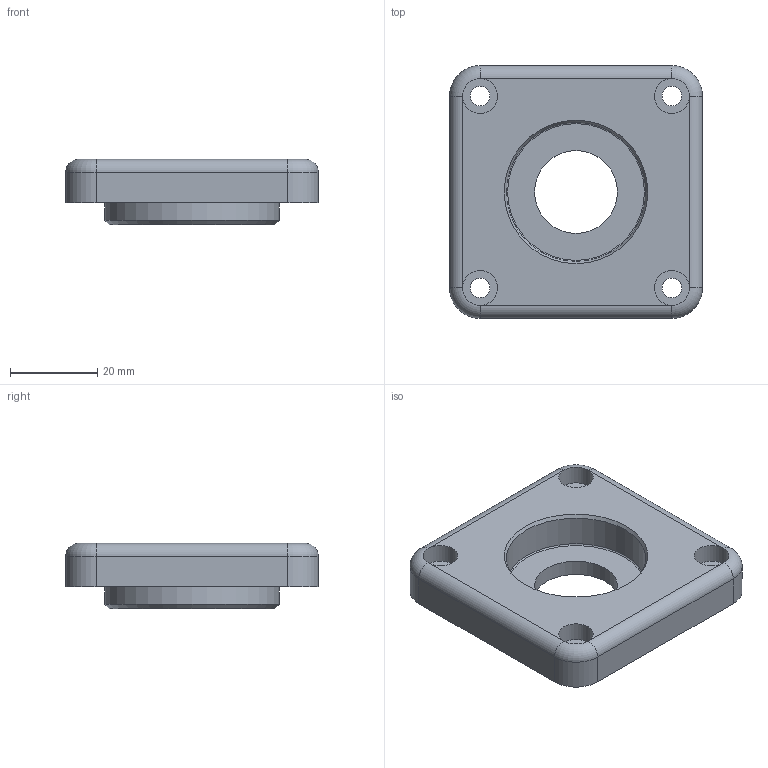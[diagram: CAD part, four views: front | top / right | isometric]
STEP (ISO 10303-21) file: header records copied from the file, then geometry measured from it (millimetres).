
FILE_DESCRIPTION(/* description */ (''),/* implementation_level */ '2;1');
FILE_NAME(/* name */ '',/* time_stamp */ '2026-07-02T16:38:32+09:00',/* author */ ('jhkim'),/* organization */ (''),/* preprocessor_version */ 'ST-DEVELOPER v20.1',/* originating_system */ 'Autodesk Inventor 2027',/* authorisation */ '');
FILE_SCHEMA (('AUTOMOTIVE_DESIGN { 1 0 10303 214 3 1 1 }'));
Length unit declared in the file: millimetre
Products named in the file (1): 앞커버
Bounding box: 58 x 58 x 15 mm (x, y, z)
Volume: 27516.4 mm3; surface area: 10362.4 mm2
Topology: 1 solids, 1 shells, 40 faces, 87 edges, 52 vertices
Faces by surface type: cylinder 19, plane 13, torus 6, cone 2
Full cylindrical faces by diameter (mm): 4.5 x4, 8 x4, 19 x1, 32 x1, 40 x1
Entity records: 1164 total; most frequent: DIRECTION 223, CARTESIAN_POINT 180, ORIENTED_EDGE 174, AXIS2_PLACEMENT_3D 95, EDGE_CURVE 87, CIRCLE 54, EDGE_LOOP 53, VERTEX_POINT 52
